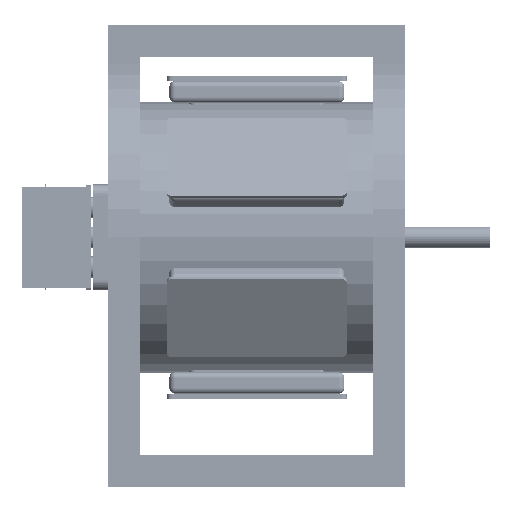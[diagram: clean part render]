
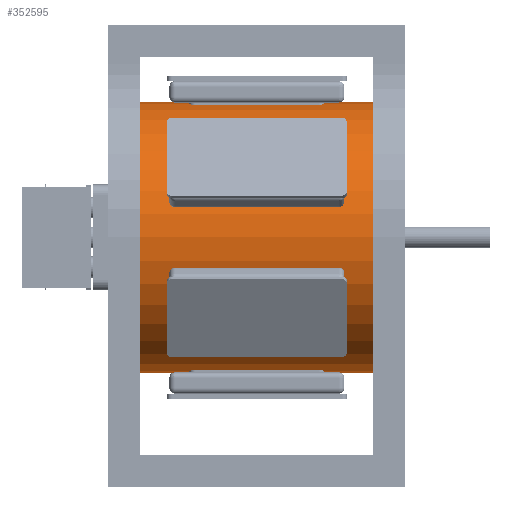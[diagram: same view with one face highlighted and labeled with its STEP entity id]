
A CAD part, left-side view. The second image highlights one B-rep face of the part: STEP entity #352595.
In plain terms, the highlighted cylindrical face has radius 161.925 mm (diameter 323.85 mm), a full revolution.
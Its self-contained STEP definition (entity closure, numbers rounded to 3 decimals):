
#352563=CARTESIAN_POINT('',(0.,-107.95,0.));
#352564=DIRECTION('',(0.,1.,0.));
#352565=DIRECTION('',(0.,-0.,1.));
#352566=AXIS2_PLACEMENT_3D('',#352563,#352564,#352565);
#352567=CYLINDRICAL_SURFACE('',#352566,161.925);
#352568=CARTESIAN_POINT('',(-0.,146.05,161.925));
#352569=VERTEX_POINT('',#352568);
#352570=CARTESIAN_POINT('',(-0.,-146.05,161.925));
#352571=VERTEX_POINT('',#352570);
#352572=CARTESIAN_POINT('',(0.,146.05,161.925));
#352573=DIRECTION('',(-0.,-1.,-0.));
#352574=VECTOR('',#352573,292.1);
#352575=LINE('',#352572,#352574);
#352576=EDGE_CURVE('',#352569,#352571,#352575,.T.);
#352577=ORIENTED_EDGE('',*,*,#352576,.T.);
#352578=CARTESIAN_POINT('',(0.,-146.05,0.));
#352579=DIRECTION('',(0.,1.,0.));
#352580=DIRECTION('',(0.,-0.,1.));
#352581=AXIS2_PLACEMENT_3D('',#352578,#352579,#352580);
#352582=CIRCLE('',#352581,161.925);
#352583=EDGE_CURVE('',#352571,#352571,#352582,.T.);
#352584=ORIENTED_EDGE('',*,*,#352583,.T.);
#352585=ORIENTED_EDGE('',*,*,#352576,.F.);
#352586=CARTESIAN_POINT('',(0.,146.05,0.));
#352587=DIRECTION('',(0.,1.,0.));
#352588=DIRECTION('',(0.,-0.,1.));
#352589=AXIS2_PLACEMENT_3D('',#352586,#352587,#352588);
#352590=CIRCLE('',#352589,161.925);
#352591=EDGE_CURVE('',#352569,#352569,#352590,.T.);
#352592=ORIENTED_EDGE('',*,*,#352591,.F.);
#352593=EDGE_LOOP('',(#352577,#352584,#352585,#352592));
#352594=FACE_BOUND('',#352593,.T.);
#352595=ADVANCED_FACE('',(#352594),#352567,.T.);
